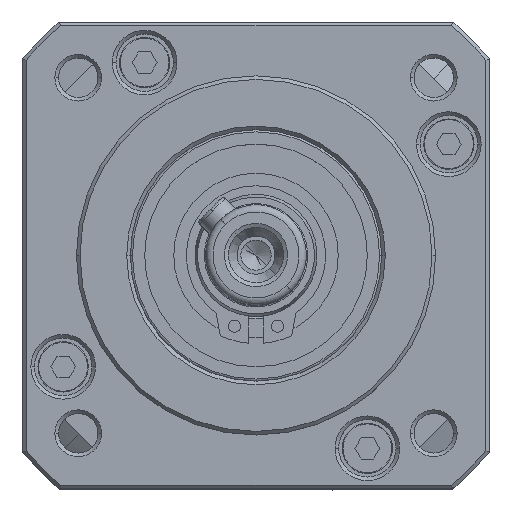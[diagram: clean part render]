
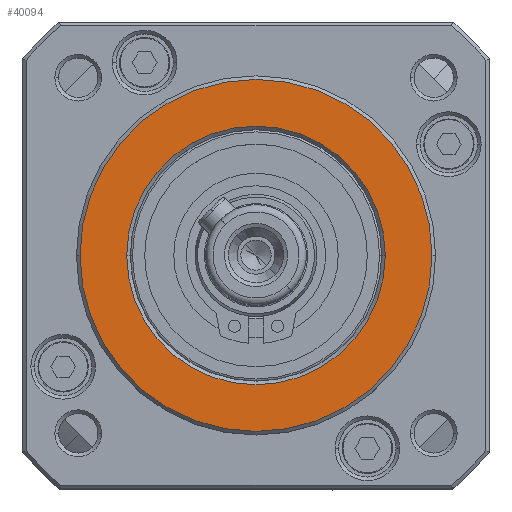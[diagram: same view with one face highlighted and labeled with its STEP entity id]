
A CAD part, top view. The second image highlights one B-rep face of the part: STEP entity #40094.
In plain terms, the highlighted planar face has unit normal (0, 0, 1).
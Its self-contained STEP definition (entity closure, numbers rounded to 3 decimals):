
#1064 = DIRECTION ( 'NONE',  ( 0., 0., -1. ) ) ;
#1847 = VERTEX_POINT ( 'NONE', #32411 ) ;
#2435 = EDGE_LOOP ( 'NONE', ( #18451, #37369 ) ) ;
#2676 = FACE_BOUND ( 'NONE', #2435, .T. ) ;
#2737 = CARTESIAN_POINT ( 'NONE',  ( -20.147, 10.389, 76.75 ) ) ;
#3499 = DIRECTION ( 'NONE',  ( -1., 0., 0. ) ) ;
#3790 = AXIS2_PLACEMENT_3D ( 'NONE', #39689, #1064, #47660 ) ;
#4526 = EDGE_LOOP ( 'NONE', ( #46331, #45534 ) ) ;
#6871 = DIRECTION ( 'NONE',  ( 0., 0., 1. ) ) ;
#6916 = FACE_OUTER_BOUND ( 'NONE', #4526, .T. ) ;
#10158 = DIRECTION ( 'NONE',  ( -1., 0., 0. ) ) ;
#10284 = EDGE_CURVE ( 'NONE', #1847, #27931, #39001, .T. ) ;
#11082 = DIRECTION ( 'NONE',  ( 0., 0., -1. ) ) ;
#13092 = PLANE ( 'NONE',  #3790 ) ;
#13370 = CARTESIAN_POINT ( 'NONE',  ( -2.147, 10.389, 76.75 ) ) ;
#14066 = CARTESIAN_POINT ( 'NONE',  ( -44.647, 10.389, 76.75 ) ) ;
#14440 = CIRCLE ( 'NONE', #47455, 24.5 ) ;
#18112 = CARTESIAN_POINT ( 'NONE',  ( 4.353, 10.389, 76.75 ) ) ;
#18451 = ORIENTED_EDGE ( 'NONE', *, *, #23657, .T. ) ;
#22240 = EDGE_CURVE ( 'NONE', #26661, #30031, #14440, .T. ) ;
#23657 = EDGE_CURVE ( 'NONE', #27931, #1847, #46538, .T. ) ;
#25569 = AXIS2_PLACEMENT_3D ( 'NONE', #2737, #11082, #33747 ) ;
#26661 = VERTEX_POINT ( 'NONE', #18112 ) ;
#27931 = VERTEX_POINT ( 'NONE', #13370 ) ;
#28066 = DIRECTION ( 'NONE',  ( -1., 0., 0. ) ) ;
#29651 = AXIS2_PLACEMENT_3D ( 'NONE', #47193, #47031, #28066 ) ;
#30031 = VERTEX_POINT ( 'NONE', #14066 ) ;
#32411 = CARTESIAN_POINT ( 'NONE',  ( -38.147, 10.389, 76.75 ) ) ;
#33747 = DIRECTION ( 'NONE',  ( -1., 0., 0. ) ) ;
#37369 = ORIENTED_EDGE ( 'NONE', *, *, #10284, .T. ) ;
#39001 = CIRCLE ( 'NONE', #25569, 18. ) ;
#39689 = CARTESIAN_POINT ( 'NONE',  ( -20.147, 10.389, 76.75 ) ) ;
#40094 = ADVANCED_FACE ( 'NONE', ( #2676, #6916 ), #13092, .F. ) ;
#41152 = CARTESIAN_POINT ( 'NONE',  ( -20.147, 10.389, 76.75 ) ) ;
#41173 = EDGE_CURVE ( 'NONE', #30031, #26661, #49944, .T. ) ;
#41465 = DIRECTION ( 'NONE',  ( 0., 0., 1. ) ) ;
#42113 = CARTESIAN_POINT ( 'NONE',  ( -20.147, 10.389, 76.75 ) ) ;
#45534 = ORIENTED_EDGE ( 'NONE', *, *, #22240, .T. ) ;
#46331 = ORIENTED_EDGE ( 'NONE', *, *, #41173, .T. ) ;
#46538 = CIRCLE ( 'NONE', #29651, 18. ) ;
#47031 = DIRECTION ( 'NONE',  ( 0., 0., -1. ) ) ;
#47193 = CARTESIAN_POINT ( 'NONE',  ( -20.147, 10.389, 76.75 ) ) ;
#47455 = AXIS2_PLACEMENT_3D ( 'NONE', #42113, #6871, #3499 ) ;
#47660 = DIRECTION ( 'NONE',  ( -1., 0., 0. ) ) ;
#49944 = CIRCLE ( 'NONE', #50232, 24.5 ) ;
#50232 = AXIS2_PLACEMENT_3D ( 'NONE', #41152, #41465, #10158 ) ;
